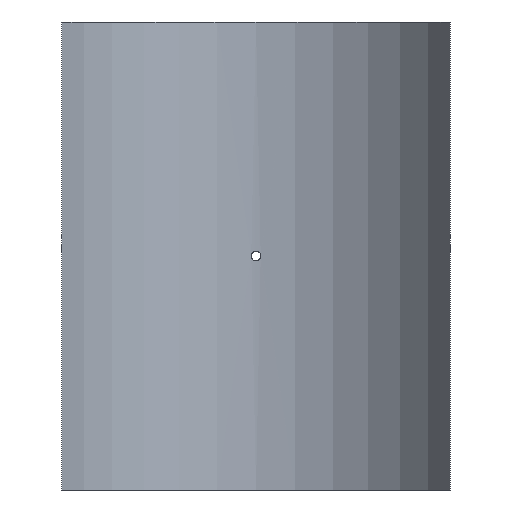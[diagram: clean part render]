
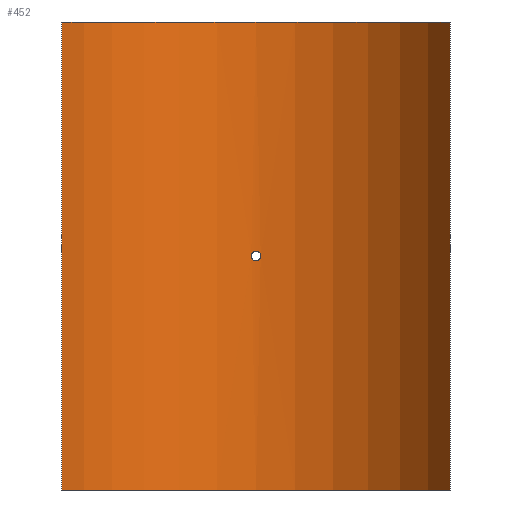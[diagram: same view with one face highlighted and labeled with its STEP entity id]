
A CAD part, front view. The second image highlights one B-rep face of the part: STEP entity #452.
In plain terms, the highlighted cylindrical face has radius 225 mm (diameter 450 mm), a partial arc.
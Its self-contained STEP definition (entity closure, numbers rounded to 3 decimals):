
#19=B_SPLINE_CURVE_WITH_KNOTS('',3,(#788,#789,#790,#791,#792,#793,#794,
#795,#796,#797,#798,#799,#800,#801,#802,#803,#804,#805,#806,#807,#808,#809,
#810,#811,#812,#813,#814,#815,#816,#817,#818,#819,#820,#821),
 .UNSPECIFIED.,.T.,.F.,(4,2,2,2,2,2,2,2,2,2,2,2,2,2,2,2,4),(0.,0.181,
0.362,0.542,0.723,0.904,
1.085,1.266,1.447,1.627,1.808,
1.989,2.17,2.351,2.531,2.712,
2.893),.UNSPECIFIED.);
#43=LINE('',#1065,#62);
#44=LINE('',#1068,#63);
#62=VECTOR('',#661,10.);
#63=VECTOR('',#664,10.);
#76=CYLINDRICAL_SURFACE('',#530,225.);
#88=FACE_BOUND('',#167,.T.);
#127=FACE_OUTER_BOUND('',#166,.T.);
#166=EDGE_LOOP('',(#405,#406,#407,#408));
#167=EDGE_LOOP('',(#409));
#201=CIRCLE('',#529,225.);
#202=CIRCLE('',#531,225.);
#219=VERTEX_POINT('',#786);
#242=VERTEX_POINT('',#1058);
#243=VERTEX_POINT('',#1060);
#244=VERTEX_POINT('',#1064);
#245=VERTEX_POINT('',#1066);
#267=EDGE_CURVE('',#219,#219,#19,.T.);
#299=EDGE_CURVE('',#242,#243,#201,.T.);
#301=EDGE_CURVE('',#244,#242,#43,.T.);
#302=EDGE_CURVE('',#245,#244,#202,.T.);
#303=EDGE_CURVE('',#245,#243,#44,.T.);
#405=ORIENTED_EDGE('',*,*,#301,.F.);
#406=ORIENTED_EDGE('',*,*,#302,.F.);
#407=ORIENTED_EDGE('',*,*,#303,.T.);
#408=ORIENTED_EDGE('',*,*,#299,.F.);
#409=ORIENTED_EDGE('',*,*,#267,.T.);
#452=ADVANCED_FACE('',(#127,#88),#76,.F.);
#529=AXIS2_PLACEMENT_3D('',#1061,#656,#657);
#530=AXIS2_PLACEMENT_3D('',#1063,#659,#660);
#531=AXIS2_PLACEMENT_3D('',#1067,#662,#663);
#656=DIRECTION('center_axis',(0.,0.,1.));
#657=DIRECTION('ref_axis',(0.867,0.499,0.));
#659=DIRECTION('center_axis',(0.,0.,1.));
#660=DIRECTION('ref_axis',(0.867,0.499,0.));
#661=DIRECTION('',(0.,0.,-1.));
#662=DIRECTION('center_axis',(0.,0.,-1.));
#663=DIRECTION('ref_axis',(0.867,0.499,0.));
#664=DIRECTION('',(0.,0.,-1.));
#786=CARTESIAN_POINT('',(4.8,224.949,0.));
#788=CARTESIAN_POINT('Ctrl Pts',(4.8,224.949,0.));
#789=CARTESIAN_POINT('Ctrl Pts',(4.8,224.949,-0.603));
#790=CARTESIAN_POINT('Ctrl Pts',(4.68,224.951,-1.246));
#791=CARTESIAN_POINT('Ctrl Pts',(4.19,224.961,-2.428));
#792=CARTESIAN_POINT('Ctrl Pts',(3.82,224.968,-2.968));
#793=CARTESIAN_POINT('Ctrl Pts',(2.968,224.981,-3.82));
#794=CARTESIAN_POINT('Ctrl Pts',(2.428,224.988,-4.19));
#795=CARTESIAN_POINT('Ctrl Pts',(1.246,224.997,-4.68));
#796=CARTESIAN_POINT('Ctrl Pts',(0.603,225.,-4.8));
#797=CARTESIAN_POINT('Ctrl Pts',(-0.603,225.,-4.8));
#798=CARTESIAN_POINT('Ctrl Pts',(-1.246,224.997,-4.68));
#799=CARTESIAN_POINT('Ctrl Pts',(-2.428,224.988,-4.19));
#800=CARTESIAN_POINT('Ctrl Pts',(-2.968,224.981,-3.82));
#801=CARTESIAN_POINT('Ctrl Pts',(-3.82,224.968,-2.968));
#802=CARTESIAN_POINT('Ctrl Pts',(-4.19,224.961,-2.428));
#803=CARTESIAN_POINT('Ctrl Pts',(-4.68,224.951,-1.246));
#804=CARTESIAN_POINT('Ctrl Pts',(-4.8,224.949,-0.603));
#805=CARTESIAN_POINT('Ctrl Pts',(-4.8,224.949,0.603));
#806=CARTESIAN_POINT('Ctrl Pts',(-4.68,224.951,1.246));
#807=CARTESIAN_POINT('Ctrl Pts',(-4.19,224.961,2.428));
#808=CARTESIAN_POINT('Ctrl Pts',(-3.82,224.968,2.968));
#809=CARTESIAN_POINT('Ctrl Pts',(-2.968,224.981,3.82));
#810=CARTESIAN_POINT('Ctrl Pts',(-2.428,224.988,4.19));
#811=CARTESIAN_POINT('Ctrl Pts',(-1.246,224.997,4.68));
#812=CARTESIAN_POINT('Ctrl Pts',(-0.603,225.,4.8));
#813=CARTESIAN_POINT('Ctrl Pts',(0.603,225.,4.8));
#814=CARTESIAN_POINT('Ctrl Pts',(1.246,224.997,4.68));
#815=CARTESIAN_POINT('Ctrl Pts',(2.428,224.988,4.19));
#816=CARTESIAN_POINT('Ctrl Pts',(2.968,224.981,3.82));
#817=CARTESIAN_POINT('Ctrl Pts',(3.82,224.968,2.968));
#818=CARTESIAN_POINT('Ctrl Pts',(4.19,224.961,2.428));
#819=CARTESIAN_POINT('Ctrl Pts',(4.68,224.951,1.246));
#820=CARTESIAN_POINT('Ctrl Pts',(4.8,224.949,0.603));
#821=CARTESIAN_POINT('Ctrl Pts',(4.8,224.949,0.));
#1058=CARTESIAN_POINT('',(195.,112.25,-235.));
#1060=CARTESIAN_POINT('',(-195.,112.25,-235.));
#1061=CARTESIAN_POINT('Origin',(0.,0.,
-235.));
#1063=CARTESIAN_POINT('Origin',(0.,0.,
0.));
#1064=CARTESIAN_POINT('',(195.,112.25,235.));
#1065=CARTESIAN_POINT('',(195.,112.25,0.));
#1066=CARTESIAN_POINT('',(-195.,112.25,235.));
#1067=CARTESIAN_POINT('Origin',(0.,0.,
235.));
#1068=CARTESIAN_POINT('',(-195.,112.25,0.));
